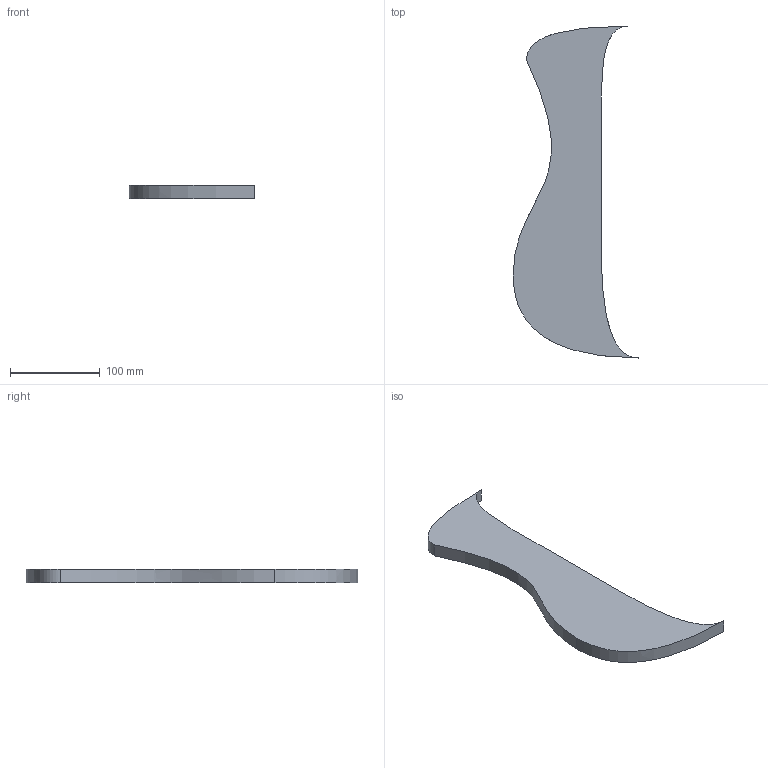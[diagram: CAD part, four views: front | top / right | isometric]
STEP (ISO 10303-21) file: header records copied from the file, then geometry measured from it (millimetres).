
FILE_DESCRIPTION(('FreeCAD Model'),'2;1');
FILE_NAME('Open CASCADE Shape Model','2024-03-17T22:25:12',('Author'),( ''),'Open CASCADE STEP processor 7.6','FreeCAD','Unknown');
FILE_SCHEMA(('AUTOMOTIVE_DESIGN { 1 0 10303 214 1 1 1 1 }'));
Length unit declared in the file: millimetre
Products named in the file (1): ClearFull_CNC
Bounding box: 140 x 370 x 15 mm (x, y, z)
Volume: 419127.3 mm3; surface area: 70459.4 mm2
Topology: 1 solids, 1 shells, 15 faces, 29 edges, 21 vertices
Faces by surface type: plane 10, extrusion 5
Entity records: 802 total; most frequent: CARTESIAN_POINT 179, DIRECTION 99, ORIENTED_EDGE 58, PCURVE 58, DEFINITIONAL_REPRESENTATION 58, VECTOR 57, LINE 52, EDGE_CURVE 29
